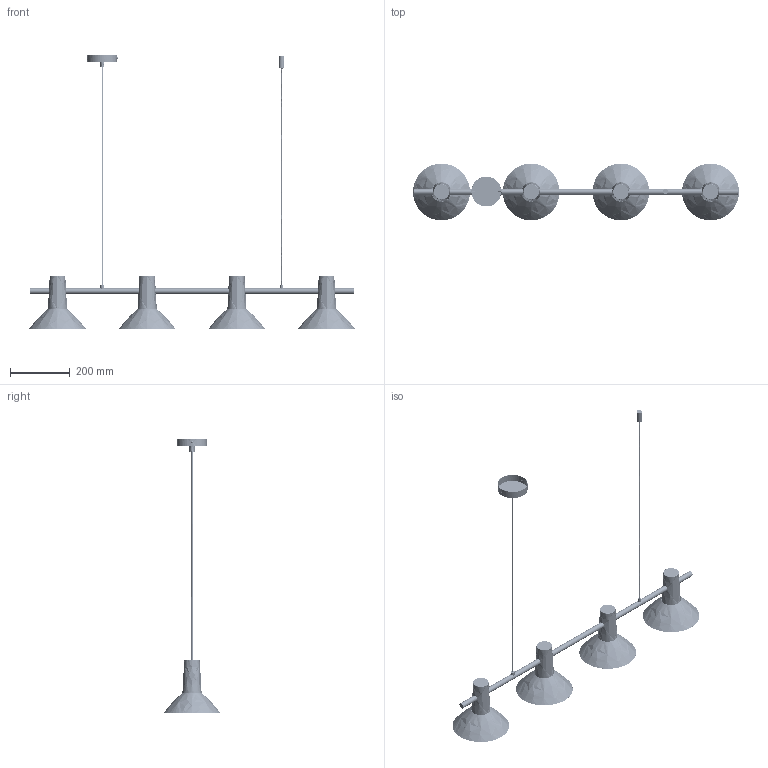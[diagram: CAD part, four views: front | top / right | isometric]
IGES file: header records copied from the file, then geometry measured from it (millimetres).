
Start section: SolidWorks IGES file using analytic representation for surfaces
Global section: file name: C:\Users\adrian\Desktop\Nueva Coleccion Septiembre 2026\HUDO\HUDO_C1366-4\HUDO_C1366_4.IGS; native system: SolidWorks 2023; preprocessor: SolidWorks 2023; author: adrian; date: 260616.170653; units: millimetre
Bounding box: 1090.01 x 190.01 x 917.36 mm (x, y, z)
Surface area: 865643.8 mm2 (no closed solid volume)
Topology: 0 solids, 0 shells, 1657 faces, 16578 edges, 16554 vertices
Faces by surface type: bspline 1657
